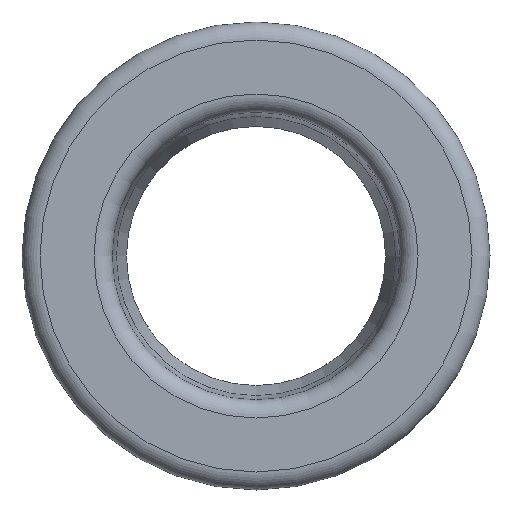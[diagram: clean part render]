
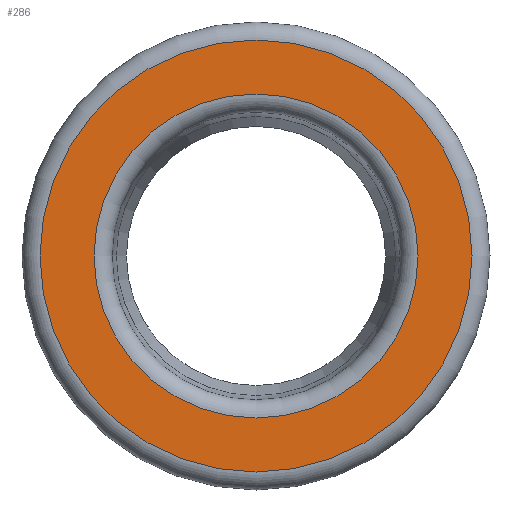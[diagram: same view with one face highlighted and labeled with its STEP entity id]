
A CAD part, left-side view. The second image highlights one B-rep face of the part: STEP entity #286.
In plain terms, the highlighted planar face has unit normal (-1, 0, 0).
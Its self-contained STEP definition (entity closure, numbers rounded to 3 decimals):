
#50=FACE_BOUND($,#109,.T.);
#51=FACE_BOUND($,#110,.T.);
#109=EDGE_LOOP($,(#232));
#110=EDGE_LOOP($,(#233));
#136=CIRCLE($,#331,22.5);
#137=CIRCLE($,#333,30.);
#160=VERTEX_POINT($,#520);
#161=VERTEX_POINT($,#523);
#185=EDGE_CURVE($,#160,#160,#136,.T.);
#186=EDGE_CURVE($,#161,#161,#137,.T.);
#232=ORIENTED_EDGE($,*,*,#185,.T.);
#233=ORIENTED_EDGE($,*,*,#186,.F.);
#243=PLANE($,#332);
#286=ADVANCED_FACE($,(#50,#51),#243,.T.);
#331=AXIS2_PLACEMENT_3D($,#521,#417,#418);
#332=AXIS2_PLACEMENT_3D($,#522,#419,#420);
#333=AXIS2_PLACEMENT_3D($,#524,#421,#422);
#417=DIRECTION('center_axis',(1.,0.,0.));
#418=DIRECTION('ref_axis',(0.,0.,-1.));
#419=DIRECTION('center_axis',(-1.,0.,0.));
#420=DIRECTION('ref_axis',(0.,0.,1.));
#421=DIRECTION('center_axis',(1.,0.,0.));
#422=DIRECTION('ref_axis',(0.,0.,-1.));
#520=CARTESIAN_POINT('',(0.,22.5,0.));
#521=CARTESIAN_POINT('Origin',(0.,0.,0.));
#522=CARTESIAN_POINT('Origin',(0.,30.,0.));
#523=CARTESIAN_POINT('',(0.,30.,0.));
#524=CARTESIAN_POINT('Origin',(0.,0.,0.));
